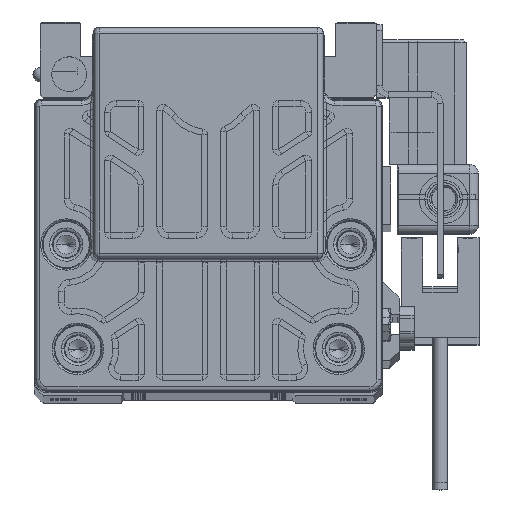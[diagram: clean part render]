
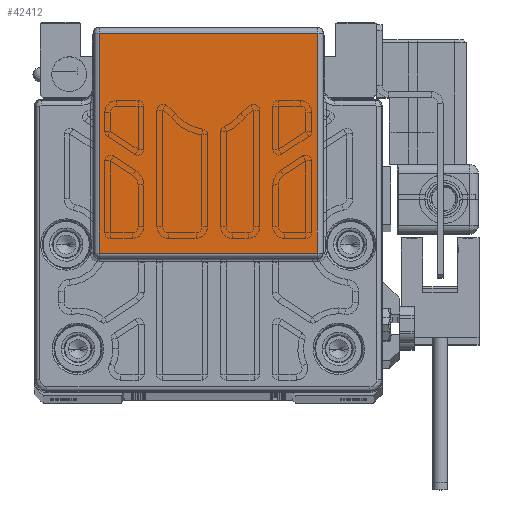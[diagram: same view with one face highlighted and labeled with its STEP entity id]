
A CAD part, top view. The second image highlights one B-rep face of the part: STEP entity #42412.
In plain terms, the highlighted planar face has unit normal (0, 0, 1) as drawn and (0, 0, -1) by its records, which use the part's own axes.
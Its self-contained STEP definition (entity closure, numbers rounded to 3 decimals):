
#611 = ORIENTED_EDGE ( 'NONE', *, *, #7054, .T. ) ;
#3480 = AXIS2_PLACEMENT_3D ( 'NONE', #56998, #11761, #34573 ) ;
#3573 = CARTESIAN_POINT ( 'NONE',  ( 18.808, 24.5, -143. ) ) ;
#4378 = VERTEX_POINT ( 'NONE', #52266 ) ;
#7054 = EDGE_CURVE ( 'NONE', #38532, #63142, #60192, .T. ) ;
#9825 = DIRECTION ( 'NONE',  ( 0., -1., 0. ) ) ;
#11238 = CARTESIAN_POINT ( 'NONE',  ( 19., 24.518, -143. ) ) ;
#11399 = PLANE ( 'NONE',  #3480 ) ;
#11761 = DIRECTION ( 'NONE',  ( 0., 0., -1. ) ) ;
#17427 = EDGE_CURVE ( 'NONE', #38532, #4378, #72253, .T. ) ;
#21487 = VERTEX_POINT ( 'NONE', #22494 ) ;
#22494 = CARTESIAN_POINT ( 'NONE',  ( 18.808, 24.518, -143. ) ) ;
#28746 = VECTOR ( 'NONE', #51982, 1000. ) ;
#29027 = ORIENTED_EDGE ( 'NONE', *, *, #46087, .F. ) ;
#29270 = EDGE_CURVE ( 'NONE', #21487, #63142, #59642, .T. ) ;
#34573 = DIRECTION ( 'NONE',  ( 0., 1., 0. ) ) ;
#35568 = VECTOR ( 'NONE', #9825, 1000. ) ;
#38532 = VERTEX_POINT ( 'NONE', #67776 ) ;
#39639 = LINE ( 'NONE', #11238, #28746 ) ;
#42412 = ADVANCED_FACE ( 'NONE', ( #68593 ), #11399, .T. ) ;
#43538 = DIRECTION ( 'NONE',  ( 0., 1., 0. ) ) ;
#44091 = CARTESIAN_POINT ( 'NONE',  ( 19., 62.447, -143. ) ) ;
#46087 = EDGE_CURVE ( 'NONE', #4378, #21487, #39639, .T. ) ;
#51982 = DIRECTION ( 'NONE',  ( 1., 0., 0. ) ) ;
#52266 = CARTESIAN_POINT ( 'NONE',  ( -18.808, 24.518, -143. ) ) ;
#52774 = ORIENTED_EDGE ( 'NONE', *, *, #29270, .F. ) ;
#52918 = VECTOR ( 'NONE', #54958, 1000. ) ;
#53686 = ORIENTED_EDGE ( 'NONE', *, *, #17427, .F. ) ;
#54958 = DIRECTION ( 'NONE',  ( 1., 0., 0. ) ) ;
#56998 = CARTESIAN_POINT ( 'NONE',  ( 19., 24.5, -143. ) ) ;
#57932 = EDGE_LOOP ( 'NONE', ( #52774, #29027, #53686, #611 ) ) ;
#59642 = LINE ( 'NONE', #3573, #68481 ) ;
#59928 = CARTESIAN_POINT ( 'NONE',  ( -18.808, 31., -143. ) ) ;
#60192 = LINE ( 'NONE', #44091, #52918 ) ;
#63142 = VERTEX_POINT ( 'NONE', #67316 ) ;
#67316 = CARTESIAN_POINT ( 'NONE',  ( 18.808, 62.447, -143. ) ) ;
#67776 = CARTESIAN_POINT ( 'NONE',  ( -18.808, 62.447, -143. ) ) ;
#68481 = VECTOR ( 'NONE', #43538, 1000. ) ;
#68593 = FACE_OUTER_BOUND ( 'NONE', #57932, .T. ) ;
#72253 = LINE ( 'NONE', #59928, #35568 ) ;
